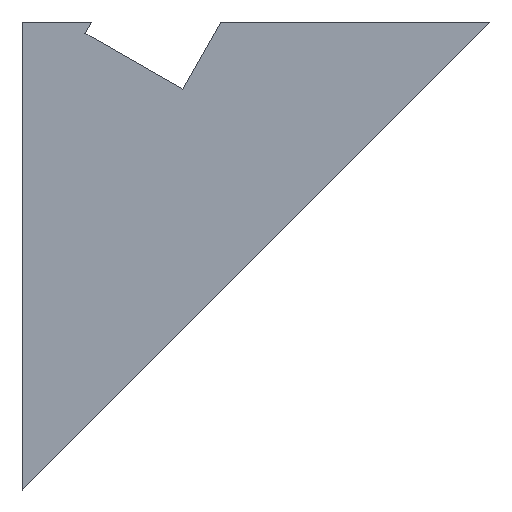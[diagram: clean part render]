
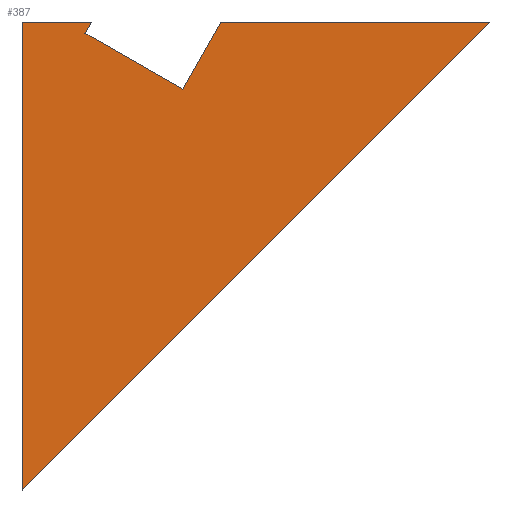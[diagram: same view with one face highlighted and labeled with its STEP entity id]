
A CAD part, top view. The second image highlights one B-rep face of the part: STEP entity #387.
In plain terms, the highlighted planar face has unit normal (0, 0, 1).
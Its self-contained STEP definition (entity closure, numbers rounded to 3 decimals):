
#24 = VERTEX_POINT('',#25);
#25 = CARTESIAN_POINT('',(0.,-125.,12.));
#32 = PLANE('',#33);
#33 = AXIS2_PLACEMENT_3D('',#34,#35,#36);
#34 = CARTESIAN_POINT('',(0.,-125.,0.));
#35 = DIRECTION('',(-1.,0.,0.));
#36 = DIRECTION('',(0.,1.,0.));
#44 = PLANE('',#45);
#45 = AXIS2_PLACEMENT_3D('',#46,#47,#48);
#46 = CARTESIAN_POINT('',(250.,125.,0.));
#47 = DIRECTION('',(0.707,-0.707,0.));
#48 = DIRECTION('',(-0.707,-0.707,0.));
#56 = EDGE_CURVE('',#24,#57,#59,.T.);
#57 = VERTEX_POINT('',#58);
#58 = CARTESIAN_POINT('',(0.,125.,12.));
#59 = SURFACE_CURVE('',#60,(#64,#71),.PCURVE_S1.);
#60 = LINE('',#61,#62);
#61 = CARTESIAN_POINT('',(0.,-125.,12.));
#62 = VECTOR('',#63,1.);
#63 = DIRECTION('',(0.,1.,0.));
#64 = PCURVE('',#32,#65);
#65 = DEFINITIONAL_REPRESENTATION('',(#66),#70);
#66 = LINE('',#67,#68);
#67 = CARTESIAN_POINT('',(0.,-12.));
#68 = VECTOR('',#69,1.);
#69 = DIRECTION('',(1.,0.));
#70 = ( GEOMETRIC_REPRESENTATION_CONTEXT(2) 
PARAMETRIC_REPRESENTATION_CONTEXT() REPRESENTATION_CONTEXT('2D SPACE',''
  ) );
#71 = PCURVE('',#72,#77);
#72 = PLANE('',#73);
#73 = AXIS2_PLACEMENT_3D('',#74,#75,#76);
#74 = CARTESIAN_POINT('',(88.388,36.612,12.));
#75 = DIRECTION('',(-0.,-0.,-1.));
#76 = DIRECTION('',(-1.,0.,0.));
#77 = DEFINITIONAL_REPRESENTATION('',(#78),#82);
#78 = LINE('',#79,#80);
#79 = CARTESIAN_POINT('',(88.388,-161.612));
#80 = VECTOR('',#81,1.);
#81 = DIRECTION('',(0.,1.));
#82 = ( GEOMETRIC_REPRESENTATION_CONTEXT(2) 
PARAMETRIC_REPRESENTATION_CONTEXT() REPRESENTATION_CONTEXT('2D SPACE',''
  ) );
#100 = PLANE('',#101);
#101 = AXIS2_PLACEMENT_3D('',#102,#103,#104);
#102 = CARTESIAN_POINT('',(0.,125.,0.));
#103 = DIRECTION('',(0.,1.,0.));
#104 = DIRECTION('',(1.,0.,0.));
#144 = VERTEX_POINT('',#145);
#145 = CARTESIAN_POINT('',(250.,125.,12.));
#159 = PLANE('',#160);
#160 = AXIS2_PLACEMENT_3D('',#161,#162,#163);
#161 = CARTESIAN_POINT('',(0.,125.,0.));
#162 = DIRECTION('',(0.,1.,0.));
#163 = DIRECTION('',(1.,0.,0.));
#171 = EDGE_CURVE('',#144,#24,#172,.T.);
#172 = SURFACE_CURVE('',#173,(#177,#184),.PCURVE_S1.);
#173 = LINE('',#174,#175);
#174 = CARTESIAN_POINT('',(250.,125.,12.));
#175 = VECTOR('',#176,1.);
#176 = DIRECTION('',(-0.707,-0.707,0.));
#177 = PCURVE('',#44,#178);
#178 = DEFINITIONAL_REPRESENTATION('',(#179),#183);
#179 = LINE('',#180,#181);
#180 = CARTESIAN_POINT('',(0.,-12.));
#181 = VECTOR('',#182,1.);
#182 = DIRECTION('',(1.,0.));
#183 = ( GEOMETRIC_REPRESENTATION_CONTEXT(2) 
PARAMETRIC_REPRESENTATION_CONTEXT() REPRESENTATION_CONTEXT('2D SPACE',''
  ) );
#184 = PCURVE('',#72,#185);
#185 = DEFINITIONAL_REPRESENTATION('',(#186),#190);
#186 = LINE('',#187,#188);
#187 = CARTESIAN_POINT('',(-161.612,88.388));
#188 = VECTOR('',#189,1.);
#189 = DIRECTION('',(0.707,-0.707));
#190 = ( GEOMETRIC_REPRESENTATION_CONTEXT(2) 
PARAMETRIC_REPRESENTATION_CONTEXT() REPRESENTATION_CONTEXT('2D SPACE',''
  ) );
#241 = EDGE_CURVE('',#57,#242,#244,.T.);
#242 = VERTEX_POINT('',#243);
#243 = CARTESIAN_POINT('',(37.06,125.,12.));
#244 = SURFACE_CURVE('',#245,(#249,#256),.PCURVE_S1.);
#245 = LINE('',#246,#247);
#246 = CARTESIAN_POINT('',(0.,125.,12.));
#247 = VECTOR('',#248,1.);
#248 = DIRECTION('',(1.,0.,0.));
#249 = PCURVE('',#100,#250);
#250 = DEFINITIONAL_REPRESENTATION('',(#251),#255);
#251 = LINE('',#252,#253);
#252 = CARTESIAN_POINT('',(0.,-12.));
#253 = VECTOR('',#254,1.);
#254 = DIRECTION('',(1.,0.));
#255 = ( GEOMETRIC_REPRESENTATION_CONTEXT(2) 
PARAMETRIC_REPRESENTATION_CONTEXT() REPRESENTATION_CONTEXT('2D SPACE',''
  ) );
#256 = PCURVE('',#72,#257);
#257 = DEFINITIONAL_REPRESENTATION('',(#258),#262);
#258 = LINE('',#259,#260);
#259 = CARTESIAN_POINT('',(88.388,88.388));
#260 = VECTOR('',#261,1.);
#261 = DIRECTION('',(-1.,0.));
#262 = ( GEOMETRIC_REPRESENTATION_CONTEXT(2) 
PARAMETRIC_REPRESENTATION_CONTEXT() REPRESENTATION_CONTEXT('2D SPACE',''
  ) );
#277 = PLANE('',#278);
#278 = AXIS2_PLACEMENT_3D('',#279,#280,#281);
#279 = CARTESIAN_POINT('',(33.639,119.031,36.001));
#280 = DIRECTION('',(-0.868,0.497,0.));
#281 = DIRECTION('',(0.497,0.868,0.));
#330 = PLANE('',#331);
#331 = AXIS2_PLACEMENT_3D('',#332,#333,#334);
#332 = CARTESIAN_POINT('',(85.698,89.196,36.001));
#333 = DIRECTION('',(0.497,0.868,0.));
#334 = DIRECTION('',(0.,0.,-1.));
#356 = PLANE('',#357);
#357 = AXIS2_PLACEMENT_3D('',#358,#359,#360);
#358 = CARTESIAN_POINT('',(85.698,89.196,36.001));
#359 = DIRECTION('',(-0.868,0.497,0.));
#360 = DIRECTION('',(0.497,0.868,0.));
#387 = ADVANCED_FACE('',(#388),#72,.F.);
#388 = FACE_BOUND('',#389,.F.);
#389 = EDGE_LOOP('',(#390,#391,#392,#393,#414,#435,#456));
#390 = ORIENTED_EDGE('',*,*,#171,.T.);
#391 = ORIENTED_EDGE('',*,*,#56,.T.);
#392 = ORIENTED_EDGE('',*,*,#241,.T.);
#393 = ORIENTED_EDGE('',*,*,#394,.F.);
#394 = EDGE_CURVE('',#395,#242,#397,.T.);
#395 = VERTEX_POINT('',#396);
#396 = CARTESIAN_POINT('',(33.639,119.031,12.));
#397 = SURFACE_CURVE('',#398,(#402,#408),.PCURVE_S1.);
#398 = LINE('',#399,#400);
#399 = CARTESIAN_POINT('',(22.629,99.82,12.));
#400 = VECTOR('',#401,1.);
#401 = DIRECTION('',(0.497,0.868,-0.));
#402 = PCURVE('',#72,#403);
#403 = DEFINITIONAL_REPRESENTATION('',(#404),#407);
#404 = B_SPLINE_CURVE_WITH_KNOTS('',1,(#405,#406),.UNSPECIFIED.,.F.,.F.,
  (2,2),(22.143,29.022),.PIECEWISE_BEZIER_KNOTS.);
#405 = CARTESIAN_POINT('',(54.749,82.42));
#406 = CARTESIAN_POINT('',(51.329,88.388));
#407 = ( GEOMETRIC_REPRESENTATION_CONTEXT(2) 
PARAMETRIC_REPRESENTATION_CONTEXT() REPRESENTATION_CONTEXT('2D SPACE',''
  ) );
#408 = PCURVE('',#277,#409);
#409 = DEFINITIONAL_REPRESENTATION('',(#410),#413);
#410 = B_SPLINE_CURVE_WITH_KNOTS('',1,(#411,#412),.UNSPECIFIED.,.F.,.F.,
  (2,2),(22.143,29.022),.PIECEWISE_BEZIER_KNOTS.);
#411 = CARTESIAN_POINT('',(0.,24.001));
#412 = CARTESIAN_POINT('',(6.879,24.001));
#413 = ( GEOMETRIC_REPRESENTATION_CONTEXT(2) 
PARAMETRIC_REPRESENTATION_CONTEXT() REPRESENTATION_CONTEXT('2D SPACE',''
  ) );
#414 = ORIENTED_EDGE('',*,*,#415,.T.);
#415 = EDGE_CURVE('',#395,#416,#418,.T.);
#416 = VERTEX_POINT('',#417);
#417 = CARTESIAN_POINT('',(85.698,89.196,12.));
#418 = SURFACE_CURVE('',#419,(#423,#429),.PCURVE_S1.);
#419 = LINE('',#420,#421);
#420 = CARTESIAN_POINT('',(98.053,82.115,12.));
#421 = VECTOR('',#422,1.);
#422 = DIRECTION('',(0.868,-0.497,0.));
#423 = PCURVE('',#72,#424);
#424 = DEFINITIONAL_REPRESENTATION('',(#425),#428);
#425 = B_SPLINE_CURVE_WITH_KNOTS('',1,(#426,#427),.UNSPECIFIED.,.F.,.F.,
  (2,2),(-74.243,-14.241),.PIECEWISE_BEZIER_KNOTS.);
#426 = CARTESIAN_POINT('',(54.749,82.42));
#427 = CARTESIAN_POINT('',(2.691,52.585));
#428 = ( GEOMETRIC_REPRESENTATION_CONTEXT(2) 
PARAMETRIC_REPRESENTATION_CONTEXT() REPRESENTATION_CONTEXT('2D SPACE',''
  ) );
#429 = PCURVE('',#330,#430);
#430 = DEFINITIONAL_REPRESENTATION('',(#431),#434);
#431 = B_SPLINE_CURVE_WITH_KNOTS('',1,(#432,#433),.UNSPECIFIED.,.F.,.F.,
  (2,2),(-74.243,-14.241),.PIECEWISE_BEZIER_KNOTS.);
#432 = CARTESIAN_POINT('',(24.001,60.002));
#433 = CARTESIAN_POINT('',(24.001,0.));
#434 = ( GEOMETRIC_REPRESENTATION_CONTEXT(2) 
PARAMETRIC_REPRESENTATION_CONTEXT() REPRESENTATION_CONTEXT('2D SPACE',''
  ) );
#435 = ORIENTED_EDGE('',*,*,#436,.T.);
#436 = EDGE_CURVE('',#416,#437,#439,.T.);
#437 = VERTEX_POINT('',#438);
#438 = CARTESIAN_POINT('',(106.217,125.,12.));
#439 = SURFACE_CURVE('',#440,(#444,#450),.PCURVE_S1.);
#440 = LINE('',#441,#442);
#441 = CARTESIAN_POINT('',(74.687,69.985,12.));
#442 = VECTOR('',#443,1.);
#443 = DIRECTION('',(0.497,0.868,-0.));
#444 = PCURVE('',#72,#445);
#445 = DEFINITIONAL_REPRESENTATION('',(#446),#449);
#446 = B_SPLINE_CURVE_WITH_KNOTS('',1,(#447,#448),.UNSPECIFIED.,.F.,.F.,
  (2,2),(22.143,63.409),.PIECEWISE_BEZIER_KNOTS.);
#447 = CARTESIAN_POINT('',(2.691,52.585));
#448 = CARTESIAN_POINT('',(-17.829,88.388));
#449 = ( GEOMETRIC_REPRESENTATION_CONTEXT(2) 
PARAMETRIC_REPRESENTATION_CONTEXT() REPRESENTATION_CONTEXT('2D SPACE',''
  ) );
#450 = PCURVE('',#356,#451);
#451 = DEFINITIONAL_REPRESENTATION('',(#452),#455);
#452 = B_SPLINE_CURVE_WITH_KNOTS('',1,(#453,#454),.UNSPECIFIED.,.F.,.F.,
  (2,2),(22.143,63.409),.PIECEWISE_BEZIER_KNOTS.);
#453 = CARTESIAN_POINT('',(0.,24.001));
#454 = CARTESIAN_POINT('',(41.267,24.001));
#455 = ( GEOMETRIC_REPRESENTATION_CONTEXT(2) 
PARAMETRIC_REPRESENTATION_CONTEXT() REPRESENTATION_CONTEXT('2D SPACE',''
  ) );
#456 = ORIENTED_EDGE('',*,*,#457,.T.);
#457 = EDGE_CURVE('',#437,#144,#458,.T.);
#458 = SURFACE_CURVE('',#459,(#463,#470),.PCURVE_S1.);
#459 = LINE('',#460,#461);
#460 = CARTESIAN_POINT('',(0.,125.,12.));
#461 = VECTOR('',#462,1.);
#462 = DIRECTION('',(1.,0.,0.));
#463 = PCURVE('',#72,#464);
#464 = DEFINITIONAL_REPRESENTATION('',(#465),#469);
#465 = LINE('',#466,#467);
#466 = CARTESIAN_POINT('',(88.388,88.388));
#467 = VECTOR('',#468,1.);
#468 = DIRECTION('',(-1.,0.));
#469 = ( GEOMETRIC_REPRESENTATION_CONTEXT(2) 
PARAMETRIC_REPRESENTATION_CONTEXT() REPRESENTATION_CONTEXT('2D SPACE',''
  ) );
#470 = PCURVE('',#159,#471);
#471 = DEFINITIONAL_REPRESENTATION('',(#472),#476);
#472 = LINE('',#473,#474);
#473 = CARTESIAN_POINT('',(0.,-12.));
#474 = VECTOR('',#475,1.);
#475 = DIRECTION('',(1.,0.));
#476 = ( GEOMETRIC_REPRESENTATION_CONTEXT(2) 
PARAMETRIC_REPRESENTATION_CONTEXT() REPRESENTATION_CONTEXT('2D SPACE',''
  ) );
